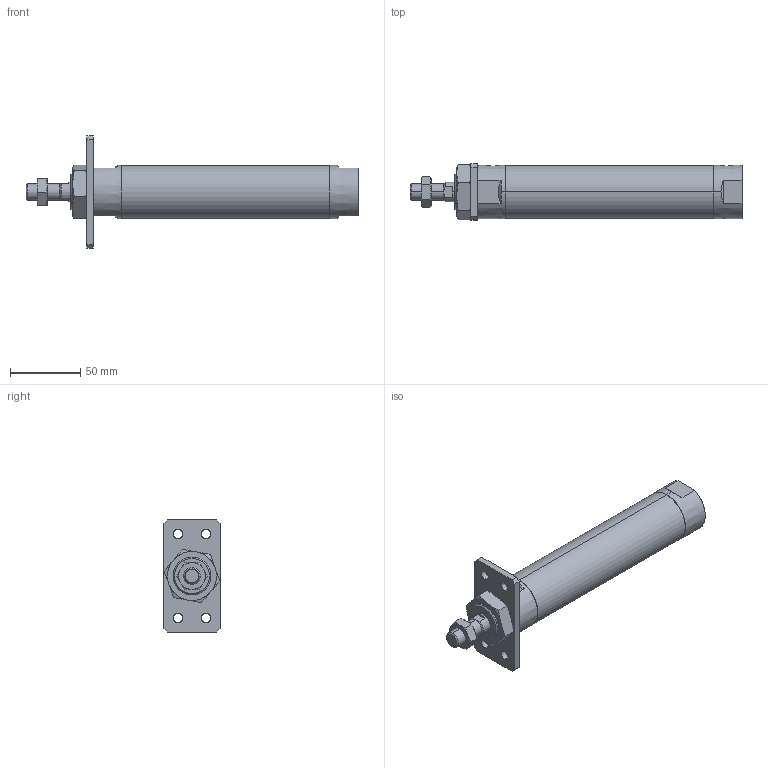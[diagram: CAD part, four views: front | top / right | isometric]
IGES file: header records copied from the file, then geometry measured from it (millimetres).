
Start section: SolidWorks IGES file using analytic representation for surfaces
Global section: file name: C:\Users\Toshiba\Desktop\JGND2-32-100-A.IGS; native system: SolidWorks 2014; preprocessor: SolidWorks 2014; author: Toshiba; date: 160804.105144; units: millimetre
Bounding box: 237 x 40 x 80 mm (x, y, z)
Surface area: 39287.6 mm2 (no closed solid volume)
Topology: 0 solids, 0 shells, 109 faces, 1980 edges, 1976 vertices
Faces by surface type: bspline 66, revolution 43
